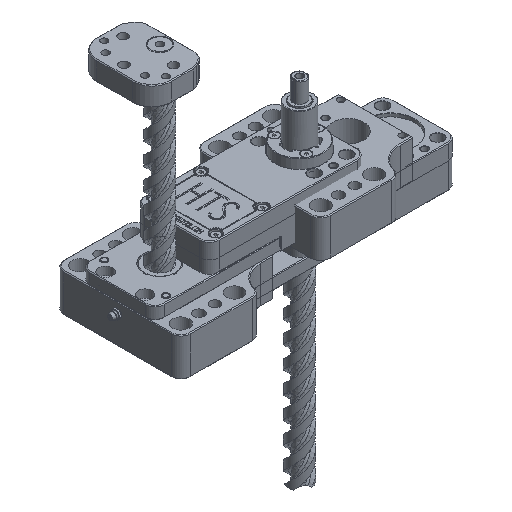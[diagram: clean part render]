
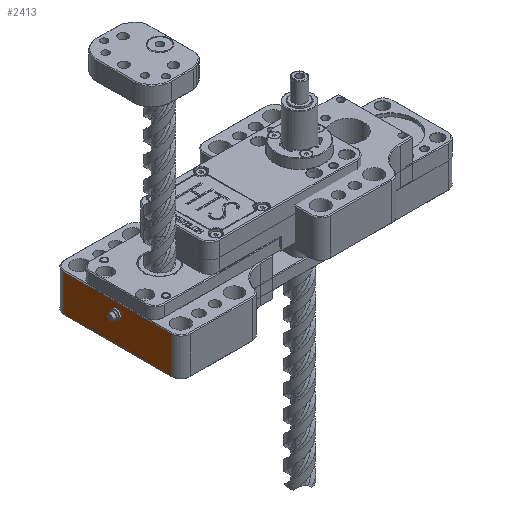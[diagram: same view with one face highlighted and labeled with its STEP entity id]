
A CAD part, isometric view. The second image highlights one B-rep face of the part: STEP entity #2413.
In plain terms, the highlighted planar face has unit normal (-1, 0, 0).
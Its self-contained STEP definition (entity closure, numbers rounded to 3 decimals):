
#2413 = ADVANCED_FACE( '', ( #5397, #5398 ), #5399, .T. );
#5397 = FACE_OUTER_BOUND( '', #35076, .T. );
#5398 = FACE_BOUND( '', #35077, .T. );
#5399 = PLANE( '', #35078 );
#35076 = EDGE_LOOP( '', ( #49038, #49039, #49040, #49041 ) );
#35077 = EDGE_LOOP( '', ( #49042 ) );
#35078 = AXIS2_PLACEMENT_3D( '', #49043, #49044, #49045 );
#49038 = ORIENTED_EDGE( '', *, *, #52275, .F. );
#49039 = ORIENTED_EDGE( '', *, *, #51510, .T. );
#49040 = ORIENTED_EDGE( '', *, *, #51331, .T. );
#49041 = ORIENTED_EDGE( '', *, *, #51741, .T. );
#49042 = ORIENTED_EDGE( '', *, *, #53676, .F. );
#49043 = CARTESIAN_POINT( '', ( -41.275, -36.513, 37.465 ) );
#49044 = DIRECTION( '', ( -1., 0., 0. ) );
#49045 = DIRECTION( '', ( 0., 0., 1. ) );
#51331 = EDGE_CURVE( '', #54254, #54255, #54256, .T. );
#51510 = EDGE_CURVE( '', #54552, #54254, #54558, .T. );
#51741 = EDGE_CURVE( '', #54255, #54946, #54948, .T. );
#52275 = EDGE_CURVE( '', #54552, #54946, #55839, .T. );
#53676 = EDGE_CURVE( '', #57856, #57856, #57857, .T. );
#54254 = VERTEX_POINT( '', #58672 );
#54255 = VERTEX_POINT( '', #58673 );
#54256 = LINE( '', #58674, #58675 );
#54552 = VERTEX_POINT( '', #59759 );
#54558 = LINE( '', #59768, #59769 );
#54946 = VERTEX_POINT( '', #62054 );
#54948 = LINE( '', #62057, #62058 );
#55839 = LINE( '', #67532, #67533 );
#57856 = VERTEX_POINT( '', #77131 );
#57857 = CIRCLE( '', #77132, 2.705 );
#58672 = CARTESIAN_POINT( '', ( -41.275, -52.388, 0.787 ) );
#58673 = CARTESIAN_POINT( '', ( -41.275, -52.388, 36.678 ) );
#58674 = CARTESIAN_POINT( '', ( -41.275, -52.388, 37.465 ) );
#58675 = VECTOR( '', #78613, 1000. );
#59759 = CARTESIAN_POINT( '', ( -41.275, 52.388, 0.787 ) );
#59768 = CARTESIAN_POINT( '', ( -41.275, -36.513, 0.787 ) );
#59769 = VECTOR( '', #78805, 1000. );
#62054 = CARTESIAN_POINT( '', ( -41.275, 52.388, 36.678 ) );
#62057 = CARTESIAN_POINT( '', ( -41.275, 52.388, 36.678 ) );
#62058 = VECTOR( '', #79042, 1000. );
#67532 = CARTESIAN_POINT( '', ( -41.275, 52.388, -8.662 ) );
#67533 = VECTOR( '', #79581, 1000. );
#77131 = CARTESIAN_POINT( '', ( -41.275, 0., 30.645 ) );
#77132 = AXIS2_PLACEMENT_3D( '', #81094, #81095, #81096 );
#78613 = DIRECTION( '', ( 0., 0., 1. ) );
#78805 = DIRECTION( '', ( 0., -1., 0. ) );
#79042 = DIRECTION( '', ( 0., 1., 0. ) );
#79581 = DIRECTION( '', ( 0., 0., 1. ) );
#81094 = CARTESIAN_POINT( '', ( -41.275, 0., 27.94 ) );
#81095 = DIRECTION( '', ( -1., 0., 0. ) );
#81096 = DIRECTION( '', ( 0., 0., 1. ) );
